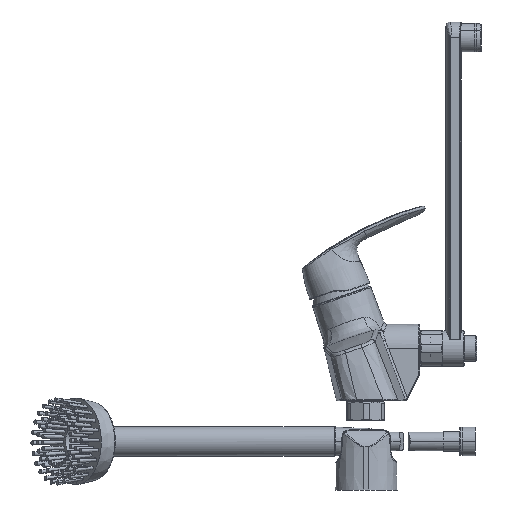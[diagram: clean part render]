
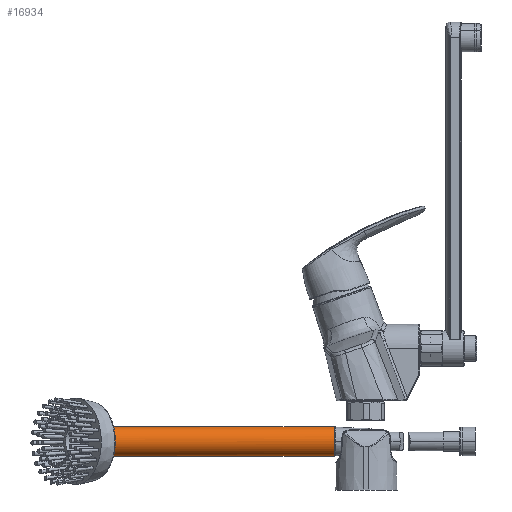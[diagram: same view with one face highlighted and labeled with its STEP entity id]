
A CAD part, left-side view. The second image highlights one B-rep face of the part: STEP entity #16934.
In plain terms, the highlighted cylindrical face has radius 12 mm (diameter 24 mm), a partial arc.
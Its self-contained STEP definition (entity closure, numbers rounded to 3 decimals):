
#410 = CARTESIAN_POINT ( 'NONE',  ( 180.786, 230.918, -28.913 ) ) ;
#1667 = ORIENTED_EDGE ( 'NONE', *, *, #16569, .T. ) ;
#1711 = DIRECTION ( 'NONE',  ( 0., 0., -1. ) ) ;
#2722 = LINE ( 'NONE', #410, #26318 ) ;
#4087 = CYLINDRICAL_SURFACE ( 'NONE', #17815, 12. ) ;
#5917 = VERTEX_POINT ( 'NONE', #16032 ) ;
#8715 = VERTEX_POINT ( 'NONE', #26833 ) ;
#10603 = CARTESIAN_POINT ( 'NONE',  ( 180.786, 230.918, -16.913 ) ) ;
#10672 = EDGE_CURVE ( 'NONE', #35460, #8715, #30348, .T. ) ;
#13075 = CARTESIAN_POINT ( 'NONE',  ( 180.786, 24.918, -16.913 ) ) ;
#13692 = DIRECTION ( 'NONE',  ( 0., -1., 0. ) ) ;
#14595 = CARTESIAN_POINT ( 'NONE',  ( 180.786, 221.66, -4.913 ) ) ;
#15547 = EDGE_CURVE ( 'NONE', #28736, #5917, #20965, .T. ) ;
#15739 = CARTESIAN_POINT ( 'NONE',  ( 180.786, 230.918, -4.913 ) ) ;
#16032 = CARTESIAN_POINT ( 'NONE',  ( 180.786, 221.66, -28.913 ) ) ;
#16041 = DIRECTION ( 'NONE',  ( 0., 0., 1. ) ) ;
#16569 = EDGE_CURVE ( 'NONE', #5917, #35460, #2722, .T. ) ;
#16934 = ADVANCED_FACE ( 'NONE', ( #27670 ), #4087, .T. ) ;
#17614 = CARTESIAN_POINT ( 'NONE',  ( 156.786, 204.178, -4.913 ) ) ;
#17658 = EDGE_LOOP ( 'NONE', ( #28639, #37021, #1667, #21952 ) ) ;
#17815 = AXIS2_PLACEMENT_3D ( 'NONE', #10603, #13692, #1711 ) ;
#19089 = VECTOR ( 'NONE', #24717, 1000. ) ;
#20623 = CARTESIAN_POINT ( 'NONE',  ( 180.786, 221.66, -28.913 ) ) ;
#20942 = CARTESIAN_POINT ( 'NONE',  ( 180.786, 24.918, -28.913 ) ) ;
#20965 =( BOUNDED_CURVE ( )  B_SPLINE_CURVE ( 3, ( #14595, #17614, #38242, #20623 ),
 .UNSPECIFIED., .F., .F. ) 
 B_SPLINE_CURVE_WITH_KNOTS ( ( 4, 4 ),
 ( 4.712, 7.854 ),
 .UNSPECIFIED. ) 
 CURVE ( )  GEOMETRIC_REPRESENTATION_ITEM ( )  RATIONAL_B_SPLINE_CURVE ( ( 1., 0.333, 0.333, 1. ) ) 
 REPRESENTATION_ITEM ( '' )  );
#21111 = EDGE_CURVE ( 'NONE', #28736, #8715, #26916, .T. ) ;
#21801 = CARTESIAN_POINT ( 'NONE',  ( 180.786, 221.66, -4.913 ) ) ;
#21952 = ORIENTED_EDGE ( 'NONE', *, *, #10672, .T. ) ;
#23353 = AXIS2_PLACEMENT_3D ( 'NONE', #13075, #33756, #16041 ) ;
#24717 = DIRECTION ( 'NONE',  ( 0., -1., 0. ) ) ;
#26318 = VECTOR ( 'NONE', #29997, 1000. ) ;
#26833 = CARTESIAN_POINT ( 'NONE',  ( 180.786, 24.918, -4.913 ) ) ;
#26916 = LINE ( 'NONE', #15739, #19089 ) ;
#27670 = FACE_OUTER_BOUND ( 'NONE', #17658, .T. ) ;
#28639 = ORIENTED_EDGE ( 'NONE', *, *, #21111, .F. ) ;
#28736 = VERTEX_POINT ( 'NONE', #21801 ) ;
#29997 = DIRECTION ( 'NONE',  ( 0., -1., 0. ) ) ;
#30348 = CIRCLE ( 'NONE', #23353, 12. ) ;
#33756 = DIRECTION ( 'NONE',  ( 0., 1., 0. ) ) ;
#35460 = VERTEX_POINT ( 'NONE', #20942 ) ;
#37021 = ORIENTED_EDGE ( 'NONE', *, *, #15547, .T. ) ;
#38242 = CARTESIAN_POINT ( 'NONE',  ( 156.786, 204.178, -28.913 ) ) ;
